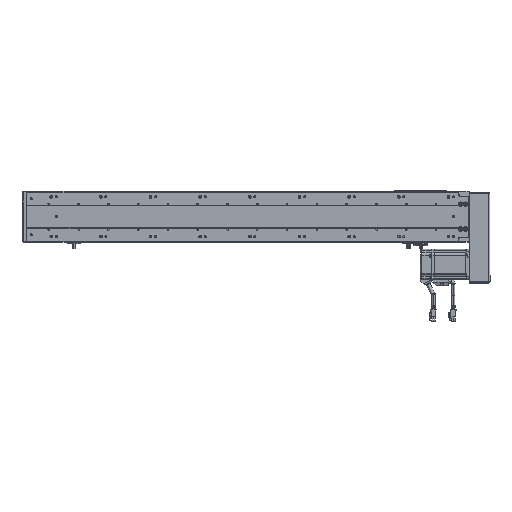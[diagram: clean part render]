
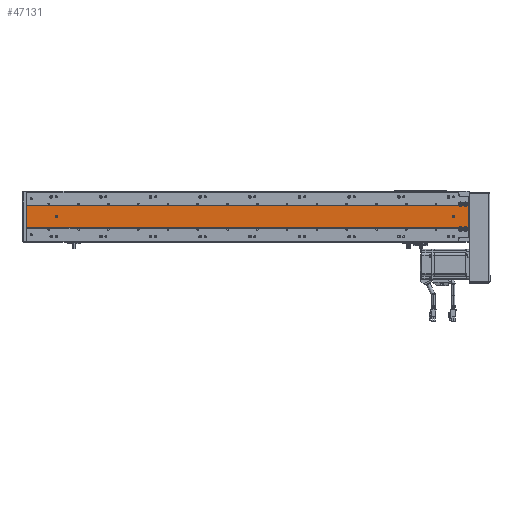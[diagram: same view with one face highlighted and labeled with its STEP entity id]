
A CAD part, front view. The second image highlights one B-rep face of the part: STEP entity #47131.
In plain terms, the highlighted planar face has unit normal (0, -1, 0).
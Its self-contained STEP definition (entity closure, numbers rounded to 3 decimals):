
#502 = CARTESIAN_POINT ( 'NONE',  ( 161.989, 89.548, 879.698 ) ) ;
#554 = CARTESIAN_POINT ( 'NONE',  ( 161.989, 89.548, 886.302 ) ) ;
#586 = CARTESIAN_POINT ( 'NONE',  ( 161.989, 89.548, 876.302 ) ) ;
#641 = CARTESIAN_POINT ( 'NONE',  ( 161.989, 89.548, 869.698 ) ) ;
#7697 = ORIENTED_EDGE ( 'NONE', *, *, #91889, .F. ) ;
#7698 = ORIENTED_EDGE ( 'NONE', *, *, #91608, .F. ) ;
#7700 = ORIENTED_EDGE ( 'NONE', *, *, #91630, .F. ) ;
#9103 = CIRCLE ( 'NONE', #28788, 4.75 ) ;
#9171 = CIRCLE ( 'NONE', #28799, 4.75 ) ;
#9405 = CIRCLE ( 'NONE', #28899, 2.5 ) ;
#9500 = CIRCLE ( 'NONE', #28897, 2.5 ) ;
#12655 = ORIENTED_EDGE ( 'NONE', *, *, #76057, .T. ) ;
#12768 = ORIENTED_EDGE ( 'NONE', *, *, #76085, .F. ) ;
#20157 = ORIENTED_EDGE ( 'NONE', *, *, #91908, .T. ) ;
#20200 = ORIENTED_EDGE ( 'NONE', *, *, #76106, .T. ) ;
#20237 = ORIENTED_EDGE ( 'NONE', *, *, #91917, .F. ) ;
#24274 = AXIS2_PLACEMENT_3D ( 'NONE', #31302, #31337, #31327 ) ;
#26092 = AXIS2_PLACEMENT_3D ( 'NONE', #70427, #70512, #70606 ) ;
#26103 = AXIS2_PLACEMENT_3D ( 'NONE', #71520, #71493, #71495 ) ;
#26107 = AXIS2_PLACEMENT_3D ( 'NONE', #70507, #70626, #70573 ) ;
#26116 = AXIS2_PLACEMENT_3D ( 'NONE', #71612, #71661, #71654 ) ;
#28788 = AXIS2_PLACEMENT_3D ( 'NONE', #39710, #39715, #39752 ) ;
#28799 = AXIS2_PLACEMENT_3D ( 'NONE', #40096, #40179, #40225 ) ;
#28897 = AXIS2_PLACEMENT_3D ( 'NONE', #73403, #73420, #73409 ) ;
#28899 = AXIS2_PLACEMENT_3D ( 'NONE', #73331, #73317, #73321 ) ;
#29252 = ORIENTED_EDGE ( 'NONE', *, *, #91887, .F. ) ;
#29261 = ORIENTED_EDGE ( 'NONE', *, *, #76143, .F. ) ;
#29273 = ORIENTED_EDGE ( 'NONE', *, *, #76038, .T. ) ;
#29288 = ORIENTED_EDGE ( 'NONE', *, *, #91871, .T. ) ;
#29293 = ORIENTED_EDGE ( 'NONE', *, *, #91349, .T. ) ;
#29301 = ORIENTED_EDGE ( 'NONE', *, *, #76155, .T. ) ;
#31302 = CARTESIAN_POINT ( 'NONE',  ( 161.989, 89.548, 889. ) ) ;
#31327 = DIRECTION ( 'NONE',  ( -1., 0., 0. ) ) ;
#31330 = PLANE ( 'NONE',  #24274 ) ;
#31337 = DIRECTION ( 'NONE',  ( 0., 1., 0. ) ) ;
#33363 = FACE_OUTER_BOUND ( 'NONE', #41695, .T. ) ;
#33391 = FACE_BOUND ( 'NONE', #41581, .T. ) ;
#33409 = FACE_BOUND ( 'NONE', #41646, .T. ) ;
#39710 = CARTESIAN_POINT ( 'NONE',  ( 165.403, 89.548, 873. ) ) ;
#39715 = DIRECTION ( 'NONE',  ( 0., 1., 0. ) ) ;
#39752 = DIRECTION ( 'NONE',  ( -1., 0., 0. ) ) ;
#40096 = CARTESIAN_POINT ( 'NONE',  ( 165.403, 89.548, 883. ) ) ;
#40179 = DIRECTION ( 'NONE',  ( 0., 1., 0. ) ) ;
#40225 = DIRECTION ( 'NONE',  ( -1., 0., 0. ) ) ;
#41581 = EDGE_LOOP ( 'NONE', ( #29261, #7700 ) ) ;
#41646 = EDGE_LOOP ( 'NONE', ( #67544, #7698 ) ) ;
#41695 = EDGE_LOOP ( 'NONE', ( #7697, #29293, #12768, #20237, #20200, #29301, #29288, #29273, #20157, #12655, #29252, #73279 ) ) ;
#42486 = CARTESIAN_POINT ( 'NONE',  ( 118.817, 89.548, 889. ) ) ;
#42495 = DIRECTION ( 'NONE',  ( 0., 0., -1. ) ) ;
#47131 = ADVANCED_FACE ( 'NONE', ( #33409, #33391, #33363 ), #31330, .F. ) ;
#61794 = VERTEX_POINT ( 'NONE', #86444 ) ;
#61819 = VERTEX_POINT ( 'NONE', #86477 ) ;
#61875 = VERTEX_POINT ( 'NONE', #88363 ) ;
#61881 = VERTEX_POINT ( 'NONE', #88492 ) ;
#62039 = VERTEX_POINT ( 'NONE', #88658 ) ;
#62043 = VERTEX_POINT ( 'NONE', #88607 ) ;
#62141 = VERTEX_POINT ( 'NONE', #88803 ) ;
#62237 = VERTEX_POINT ( 'NONE', #88942 ) ;
#62271 = VERTEX_POINT ( 'NONE', #88932 ) ;
#62284 = VERTEX_POINT ( 'NONE', #88880 ) ;
#62318 = VERTEX_POINT ( 'NONE', #88823 ) ;
#63131 = VERTEX_POINT ( 'NONE', #88315 ) ;
#67544 = ORIENTED_EDGE ( 'NONE', *, *, #76072, .F. ) ;
#70292 = CARTESIAN_POINT ( 'NONE',  ( 118.817, 89.548, 889. ) ) ;
#70301 = DIRECTION ( 'NONE',  ( 0., 0., -1. ) ) ;
#70427 = CARTESIAN_POINT ( 'NONE',  ( 140.403, 89.548, 59. ) ) ;
#70507 = CARTESIAN_POINT ( 'NONE',  ( 115.403, 89.548, 883. ) ) ;
#70512 = DIRECTION ( 'NONE',  ( 0., -1., 0. ) ) ;
#70573 = DIRECTION ( 'NONE',  ( -1., 0., 0. ) ) ;
#70606 = DIRECTION ( 'NONE',  ( 1., 0., 0. ) ) ;
#70626 = DIRECTION ( 'NONE',  ( 0., 1., 0. ) ) ;
#71493 = DIRECTION ( 'NONE',  ( 0., 1., 0. ) ) ;
#71495 = DIRECTION ( 'NONE',  ( -1., 0., 0. ) ) ;
#71520 = CARTESIAN_POINT ( 'NONE',  ( 115.403, 89.548, 873. ) ) ;
#71561 = CARTESIAN_POINT ( 'NONE',  ( 161.989, 89.548, 0. ) ) ;
#71586 = DIRECTION ( 'NONE',  ( 1., 0., 0. ) ) ;
#71612 = CARTESIAN_POINT ( 'NONE',  ( 140.403, 89.548, 859. ) ) ;
#71622 = CARTESIAN_POINT ( 'NONE',  ( 161.989, 89.548, 889. ) ) ;
#71636 = DIRECTION ( 'NONE',  ( 0., 0., -1. ) ) ;
#71654 = DIRECTION ( 'NONE',  ( 1., 0., 0. ) ) ;
#71661 = DIRECTION ( 'NONE',  ( 0., -1., 0. ) ) ;
#71842 = CIRCLE ( 'NONE', #26103, 4.75 ) ;
#71898 = VECTOR ( 'NONE', #71586, 1000. ) ;
#71915 = CIRCLE ( 'NONE', #26116, 2.5 ) ;
#71919 = LINE ( 'NONE', #71561, #71898 ) ;
#71953 = VECTOR ( 'NONE', #70301, 1000. ) ;
#71962 = LINE ( 'NONE', #70292, #71953 ) ;
#71967 = LINE ( 'NONE', #71622, #71982 ) ;
#71982 = VECTOR ( 'NONE', #71636, 1000. ) ;
#72008 = CIRCLE ( 'NONE', #26107, 4.75 ) ;
#72048 = CIRCLE ( 'NONE', #26092, 2.5 ) ;
#72463 = VECTOR ( 'NONE', #98661, 1000. ) ;
#72467 = LINE ( 'NONE', #98629, #72463 ) ;
#72485 = LINE ( 'NONE', #98682, #72500 ) ;
#72500 = VECTOR ( 'NONE', #98554, 1000. ) ;
#72507 = LINE ( 'NONE', #42486, #72514 ) ;
#72514 = VECTOR ( 'NONE', #42495, 1000. ) ;
#72529 = VECTOR ( 'NONE', #98710, 1000. ) ;
#72547 = VECTOR ( 'NONE', #98942, 1000. ) ;
#72562 = LINE ( 'NONE', #98899, #72547 ) ;
#72566 = LINE ( 'NONE', #98748, #72529 ) ;
#73279 = ORIENTED_EDGE ( 'NONE', *, *, #91309, .T. ) ;
#73317 = DIRECTION ( 'NONE',  ( 0., -1., 0. ) ) ;
#73321 = DIRECTION ( 'NONE',  ( 1., 0., 0. ) ) ;
#73331 = CARTESIAN_POINT ( 'NONE',  ( 140.403, 89.548, 859. ) ) ;
#73403 = CARTESIAN_POINT ( 'NONE',  ( 140.403, 89.548, 59. ) ) ;
#73409 = DIRECTION ( 'NONE',  ( 1., 0., 0. ) ) ;
#73420 = DIRECTION ( 'NONE',  ( 0., -1., 0. ) ) ;
#76038 = EDGE_CURVE ( 'NONE', #62318, #62141, #71842, .T. ) ;
#76057 = EDGE_CURVE ( 'NONE', #62284, #62043, #71919, .T. ) ;
#76072 = EDGE_CURVE ( 'NONE', #61875, #61794, #71915, .T. ) ;
#76085 = EDGE_CURVE ( 'NONE', #62271, #99899, #71967, .T. ) ;
#76106 = EDGE_CURVE ( 'NONE', #62039, #63131, #71962, .T. ) ;
#76143 = EDGE_CURVE ( 'NONE', #61881, #61819, #72048, .T. ) ;
#76155 = EDGE_CURVE ( 'NONE', #63131, #62237, #72008, .T. ) ;
#86444 = CARTESIAN_POINT ( 'NONE',  ( 137.903, 89.548, 859. ) ) ;
#86477 = CARTESIAN_POINT ( 'NONE',  ( 137.903, 89.548, 59. ) ) ;
#88315 = CARTESIAN_POINT ( 'NONE',  ( 118.817, 89.548, 886.302 ) ) ;
#88363 = CARTESIAN_POINT ( 'NONE',  ( 142.903, 89.548, 859. ) ) ;
#88492 = CARTESIAN_POINT ( 'NONE',  ( 142.903, 89.548, 59. ) ) ;
#88607 = CARTESIAN_POINT ( 'NONE',  ( 161.989, 89.548, 0. ) ) ;
#88658 = CARTESIAN_POINT ( 'NONE',  ( 118.817, 89.548, 889. ) ) ;
#88803 = CARTESIAN_POINT ( 'NONE',  ( 118.817, 89.548, 869.698 ) ) ;
#88823 = CARTESIAN_POINT ( 'NONE',  ( 118.817, 89.548, 876.302 ) ) ;
#88880 = CARTESIAN_POINT ( 'NONE',  ( 118.817, 89.548, 0. ) ) ;
#88932 = CARTESIAN_POINT ( 'NONE',  ( 161.989, 89.548, 889. ) ) ;
#88942 = CARTESIAN_POINT ( 'NONE',  ( 118.817, 89.548, 879.698 ) ) ;
#91309 = EDGE_CURVE ( 'NONE', #99961, #99950, #9103, .T. ) ;
#91349 = EDGE_CURVE ( 'NONE', #99830, #99899, #9171, .T. ) ;
#91608 = EDGE_CURVE ( 'NONE', #61794, #61875, #9405, .T. ) ;
#91630 = EDGE_CURVE ( 'NONE', #61819, #61881, #9500, .T. ) ;
#91871 = EDGE_CURVE ( 'NONE', #62237, #62318, #72507, .T. ) ;
#91887 = EDGE_CURVE ( 'NONE', #99961, #62043, #72485, .T. ) ;
#91889 = EDGE_CURVE ( 'NONE', #99830, #99950, #72467, .T. ) ;
#91908 = EDGE_CURVE ( 'NONE', #62141, #62284, #72566, .T. ) ;
#91917 = EDGE_CURVE ( 'NONE', #62039, #62271, #72562, .T. ) ;
#98554 = DIRECTION ( 'NONE',  ( 0., 0., -1. ) ) ;
#98629 = CARTESIAN_POINT ( 'NONE',  ( 161.989, 89.548, 889. ) ) ;
#98661 = DIRECTION ( 'NONE',  ( 0., 0., -1. ) ) ;
#98682 = CARTESIAN_POINT ( 'NONE',  ( 161.989, 89.548, 889. ) ) ;
#98710 = DIRECTION ( 'NONE',  ( 0., 0., -1. ) ) ;
#98748 = CARTESIAN_POINT ( 'NONE',  ( 118.817, 89.548, 889. ) ) ;
#98899 = CARTESIAN_POINT ( 'NONE',  ( 161.989, 89.548, 889. ) ) ;
#98942 = DIRECTION ( 'NONE',  ( 1., 0., 0. ) ) ;
#99830 = VERTEX_POINT ( 'NONE', #502 ) ;
#99899 = VERTEX_POINT ( 'NONE', #554 ) ;
#99950 = VERTEX_POINT ( 'NONE', #586 ) ;
#99961 = VERTEX_POINT ( 'NONE', #641 ) ;
